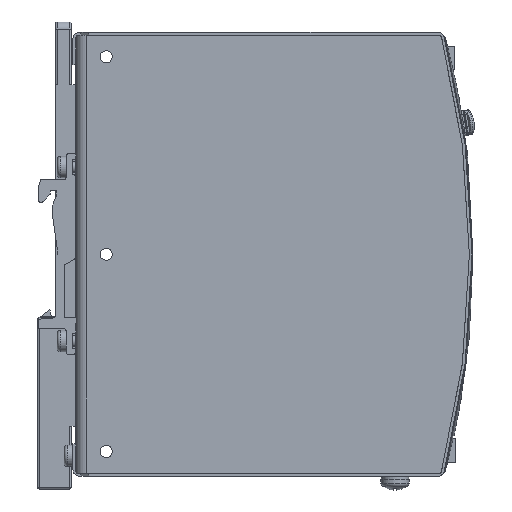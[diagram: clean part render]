
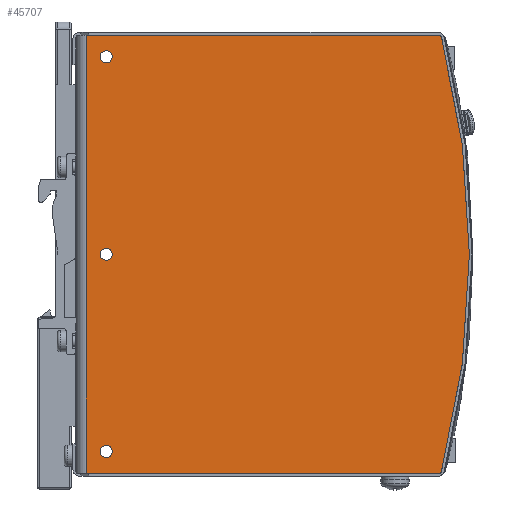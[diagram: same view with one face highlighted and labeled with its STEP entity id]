
A CAD part, front view. The second image highlights one B-rep face of the part: STEP entity #45707.
In plain terms, the highlighted planar face has unit normal (0, -1, 0) as drawn and (1, 0, 0) by its records, which use the part's own axes.
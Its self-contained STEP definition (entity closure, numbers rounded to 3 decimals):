
#1358=FACE_BOUND('',#6379,.T.);
#1359=FACE_BOUND('',#6380,.T.);
#1360=FACE_BOUND('',#6381,.T.);
#2165=PLANE('',#48464);
#3972=FACE_OUTER_BOUND('',#6378,.T.);
#6378=EDGE_LOOP('',(#31970,#31971,#31972,#31973,#31974,#31975));
#6379=EDGE_LOOP('',(#31976));
#6380=EDGE_LOOP('',(#31977));
#6381=EDGE_LOOP('',(#31978));
#9461=LINE('',#62367,#14705);
#9462=LINE('',#62369,#14706);
#9463=LINE('',#62371,#14707);
#14705=VECTOR('',#51393,10.);
#14706=VECTOR('',#51394,10.);
#14707=VECTOR('',#51395,10.);
#19929=CIRCLE('',#48435,1.7);
#19933=CIRCLE('',#48441,1.7);
#19937=CIRCLE('',#48447,1.7);
#19942=CIRCLE('',#48459,0.5);
#19944=CIRCLE('',#48462,240.);
#19946=CIRCLE('',#48465,0.5);
#20633=VERTEX_POINT('',#62287);
#20637=VERTEX_POINT('',#62299);
#20641=VERTEX_POINT('',#62311);
#20654=VERTEX_POINT('',#62351);
#20655=VERTEX_POINT('',#62352);
#20658=VERTEX_POINT('',#62360);
#20660=VERTEX_POINT('',#62366);
#20661=VERTEX_POINT('',#62368);
#20662=VERTEX_POINT('',#62370);
#25135=EDGE_CURVE('',#20633,#20633,#19929,.T.);
#25141=EDGE_CURVE('',#20637,#20637,#19933,.T.);
#25147=EDGE_CURVE('',#20641,#20641,#19937,.T.);
#25166=EDGE_CURVE('',#20654,#20655,#19942,.T.);
#25170=EDGE_CURVE('',#20658,#20655,#19944,.T.);
#25173=EDGE_CURVE('',#20654,#20660,#9461,.T.);
#25174=EDGE_CURVE('',#20661,#20660,#9462,.T.);
#25175=EDGE_CURVE('',#20661,#20662,#9463,.T.);
#25176=EDGE_CURVE('',#20658,#20662,#19946,.T.);
#31970=ORIENTED_EDGE('',*,*,#25166,.F.);
#31971=ORIENTED_EDGE('',*,*,#25173,.T.);
#31972=ORIENTED_EDGE('',*,*,#25174,.F.);
#31973=ORIENTED_EDGE('',*,*,#25175,.T.);
#31974=ORIENTED_EDGE('',*,*,#25176,.F.);
#31975=ORIENTED_EDGE('',*,*,#25170,.T.);
#31976=ORIENTED_EDGE('',*,*,#25135,.T.);
#31977=ORIENTED_EDGE('',*,*,#25141,.T.);
#31978=ORIENTED_EDGE('',*,*,#25147,.T.);
#45707=ADVANCED_FACE('',(#3972,#1358,#1359,#1360),#2165,.T.);
#48435=AXIS2_PLACEMENT_3D('',#62289,#51312,#51313);
#48441=AXIS2_PLACEMENT_3D('',#62301,#51326,#51327);
#48447=AXIS2_PLACEMENT_3D('',#62313,#51340,#51341);
#48459=AXIS2_PLACEMENT_3D('',#62353,#51378,#51379);
#48462=AXIS2_PLACEMENT_3D('',#62361,#51386,#51387);
#48464=AXIS2_PLACEMENT_3D('',#62365,#51391,#51392);
#48465=AXIS2_PLACEMENT_3D('',#62372,#51396,#51397);
#51312=DIRECTION('center_axis',(-1.,0.,0.));
#51313=DIRECTION('ref_axis',(0.,0.,
-1.));
#51326=DIRECTION('center_axis',(-1.,0.,0.));
#51327=DIRECTION('ref_axis',(0.,0.,
-1.));
#51340=DIRECTION('center_axis',(-1.,0.,0.));
#51341=DIRECTION('ref_axis',(0.,0.,
-1.));
#51378=DIRECTION('center_axis',(-1.,0.,0.));
#51379=DIRECTION('ref_axis',(0.,0.792,-0.611));
#51386=DIRECTION('center_axis',(1.,0.,0.));
#51387=DIRECTION('ref_axis',(0.,0.,1.));
#51391=DIRECTION('center_axis',(1.,0.,0.));
#51392=DIRECTION('ref_axis',(0.,0.,-1.));
#51393=DIRECTION('',(0.,0.,1.));
#51394=DIRECTION('',(0.,1.,0.));
#51395=DIRECTION('',(0.,0.,-1.));
#51396=DIRECTION('center_axis',(-1.,0.,0.));
#51397=DIRECTION('ref_axis',(0.,-0.792,-0.611));
#62287=CARTESIAN_POINT('',(21.,-55.15,-5.3));
#62289=CARTESIAN_POINT('Origin',(21.,-55.15,-7.));
#62299=CARTESIAN_POINT('',(21.,0.,-5.3));
#62301=CARTESIAN_POINT('Origin',(21.,0.,-7.));
#62311=CARTESIAN_POINT('',(21.,55.15,-5.3));
#62313=CARTESIAN_POINT('Origin',(21.,55.15,-7.));
#62351=CARTESIAN_POINT('',(21.,61.15,-100.193));
#62352=CARTESIAN_POINT('',(21.,60.777,-100.677));
#62353=CARTESIAN_POINT('Origin',(21.,60.65,-100.193));
#62360=CARTESIAN_POINT('',(21.,-60.777,-100.677));
#62361=CARTESIAN_POINT('Origin',(21.,0.,131.5));
#62365=CARTESIAN_POINT('Origin',(21.,61.15,1.5));
#62366=CARTESIAN_POINT('',(21.,61.15,-1.5));
#62367=CARTESIAN_POINT('',(21.,61.15,-128.5));
#62368=CARTESIAN_POINT('',(21.,-61.15,-1.5));
#62369=CARTESIAN_POINT('',(21.,61.15,-1.5));
#62370=CARTESIAN_POINT('',(21.,-61.15,-100.193));
#62371=CARTESIAN_POINT('',(21.,-61.15,-128.5));
#62372=CARTESIAN_POINT('Origin',(21.,-60.65,-100.193));
